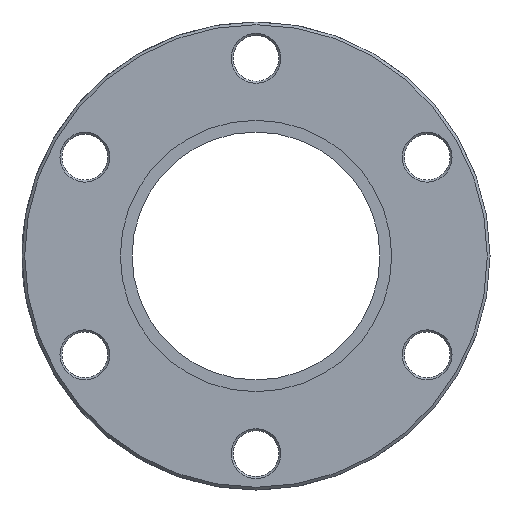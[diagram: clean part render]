
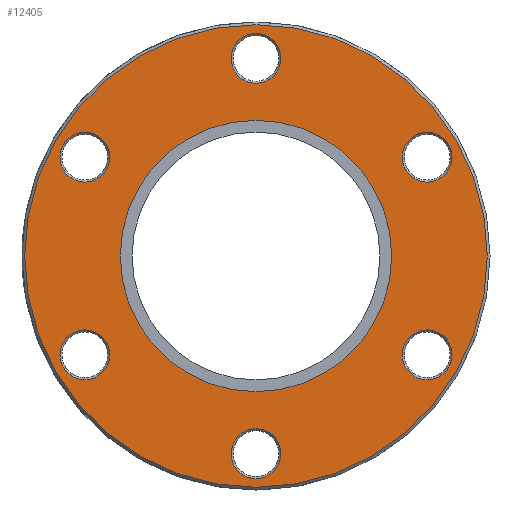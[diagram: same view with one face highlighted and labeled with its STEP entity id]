
A CAD part, left-side view. The second image highlights one B-rep face of the part: STEP entity #12405.
In plain terms, the highlighted planar face has unit normal (-1, 0, 0).
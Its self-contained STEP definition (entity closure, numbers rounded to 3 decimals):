
#12305=CARTESIAN_POINT('',(-13.,34.35,0.));
#12306=VERTEX_POINT('',#12305);
#12307=CARTESIAN_POINT('',(-13.,0.0,0.0));
#12308=DIRECTION('',(1.0,0.0,0.0));
#12309=DIRECTION('',(0.0,-1.0,0.0));
#12310=AXIS2_PLACEMENT_3D('',#12307,#12308,#12309);
#12311=CIRCLE('',#12310,34.35);
#12312=EDGE_CURVE('',#12306,#12306,#12311,.T.);
#12320=CARTESIAN_POINT('',(-13.,17.375,0.0));
#12321=DIRECTION('',(-1.0,0.0,0.0));
#12322=DIRECTION('',(0.0,0.0,1.0));
#12323=AXIS2_PLACEMENT_3D('',#12320,#12321,#12322);
#12324=PLANE('',#12323);
#12325=ORIENTED_EDGE('',*,*,#12312,.F.);
#12326=EDGE_LOOP('',(#12325));
#12327=FACE_OUTER_BOUND('',#12326,.T.);
#12328=CARTESIAN_POINT('',(-13.,3.204,-27.5));
#12329=VERTEX_POINT('',#12328);
#12330=CARTESIAN_POINT('',(-13.,0.,-29.35));
#12331=DIRECTION('',(-1.0,0.0,0.0));
#12332=DIRECTION('',(0.0,-0.866,-0.5));
#12333=AXIS2_PLACEMENT_3D('',#12330,#12331,#12332);
#12334=CIRCLE('',#12333,3.7);
#12335=EDGE_CURVE('',#12329,#12329,#12334,.T.);
#12336=ORIENTED_EDGE('',*,*,#12335,.F.);
#12337=EDGE_LOOP('',(#12336));
#12338=FACE_BOUND('',#12337,.T.);
#12339=CARTESIAN_POINT('',(-13.,-25.418,10.975));
#12340=VERTEX_POINT('',#12339);
#12341=CARTESIAN_POINT('',(-13.,-25.418,14.675));
#12342=DIRECTION('',(-1.0,0.0,0.0));
#12343=DIRECTION('',(0.0,0.0,1.0));
#12344=AXIS2_PLACEMENT_3D('',#12341,#12342,#12343);
#12345=CIRCLE('',#12344,3.7);
#12346=EDGE_CURVE('',#12340,#12340,#12345,.T.);
#12347=ORIENTED_EDGE('',*,*,#12346,.F.);
#12348=EDGE_LOOP('',(#12347));
#12349=FACE_BOUND('',#12348,.T.);
#12350=CARTESIAN_POINT('',(-13.,22.214,16.525));
#12351=VERTEX_POINT('',#12350);
#12352=CARTESIAN_POINT('',(-13.,25.418,14.675));
#12353=DIRECTION('',(-1.,0.0,0.0));
#12354=DIRECTION('',(0.0,0.866,-0.5));
#12355=AXIS2_PLACEMENT_3D('',#12352,#12353,#12354);
#12356=CIRCLE('',#12355,3.7);
#12357=EDGE_CURVE('',#12351,#12351,#12356,.T.);
#12358=ORIENTED_EDGE('',*,*,#12357,.F.);
#12359=EDGE_LOOP('',(#12358));
#12360=FACE_BOUND('',#12359,.T.);
#12361=CARTESIAN_POINT('',(-13.,25.418,-10.975));
#12362=VERTEX_POINT('',#12361);
#12363=CARTESIAN_POINT('',(-13.,25.418,-14.675));
#12364=DIRECTION('',(-1.0,0.0,0.0));
#12365=DIRECTION('',(0.0,0.0,-1.0));
#12366=AXIS2_PLACEMENT_3D('',#12363,#12364,#12365);
#12367=CIRCLE('',#12366,3.7);
#12368=EDGE_CURVE('',#12362,#12362,#12367,.T.);
#12369=ORIENTED_EDGE('',*,*,#12368,.F.);
#12370=EDGE_LOOP('',(#12369));
#12371=FACE_BOUND('',#12370,.T.);
#12372=CARTESIAN_POINT('',(-13.,-3.204,27.5));
#12373=VERTEX_POINT('',#12372);
#12374=CARTESIAN_POINT('',(-13.,0.,29.35));
#12375=DIRECTION('',(-1.0,0.0,0.0));
#12376=DIRECTION('',(0.0,0.866,0.5));
#12377=AXIS2_PLACEMENT_3D('',#12374,#12375,#12376);
#12378=CIRCLE('',#12377,3.7);
#12379=EDGE_CURVE('',#12373,#12373,#12378,.T.);
#12380=ORIENTED_EDGE('',*,*,#12379,.F.);
#12381=EDGE_LOOP('',(#12380));
#12382=FACE_BOUND('',#12381,.T.);
#12383=CARTESIAN_POINT('',(-13.,-22.214,-16.525));
#12384=VERTEX_POINT('',#12383);
#12385=CARTESIAN_POINT('',(-13.,-25.418,-14.675));
#12386=DIRECTION('',(-1.0,0.0,0.0));
#12387=DIRECTION('',(0.0,-0.866,0.5));
#12388=AXIS2_PLACEMENT_3D('',#12385,#12386,#12387);
#12389=CIRCLE('',#12388,3.7);
#12390=EDGE_CURVE('',#12384,#12384,#12389,.T.);
#12391=ORIENTED_EDGE('',*,*,#12390,.F.);
#12392=EDGE_LOOP('',(#12391));
#12393=FACE_BOUND('',#12392,.T.);
#12394=CARTESIAN_POINT('',(-13.,20.15,0.0));
#12395=VERTEX_POINT('',#12394);
#12396=CARTESIAN_POINT('',(-13.,0.0,0.0));
#12397=DIRECTION('',(1.0,0.0,0.0));
#12398=DIRECTION('',(0.0,1.0,0.0));
#12399=AXIS2_PLACEMENT_3D('',#12396,#12397,#12398);
#12400=CIRCLE('',#12399,20.15);
#12401=EDGE_CURVE('',#12395,#12395,#12400,.T.);
#12402=ORIENTED_EDGE('',*,*,#12401,.T.);
#12403=EDGE_LOOP('',(#12402));
#12404=FACE_BOUND('',#12403,.T.);
#12405=ADVANCED_FACE('',(#12327,#12338,#12349,#12360,#12371,#12382,#12393,#12404),#12324,.T.);
